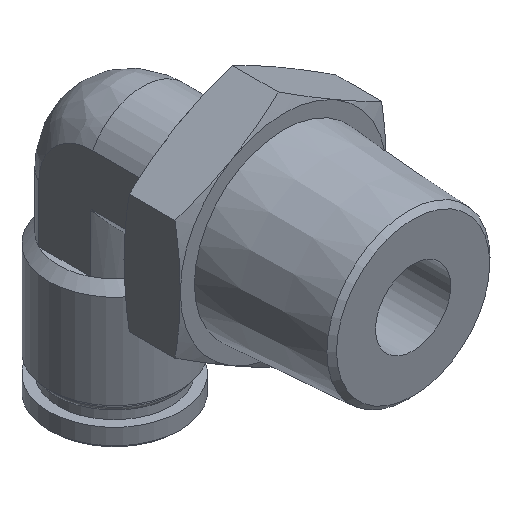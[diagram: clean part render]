
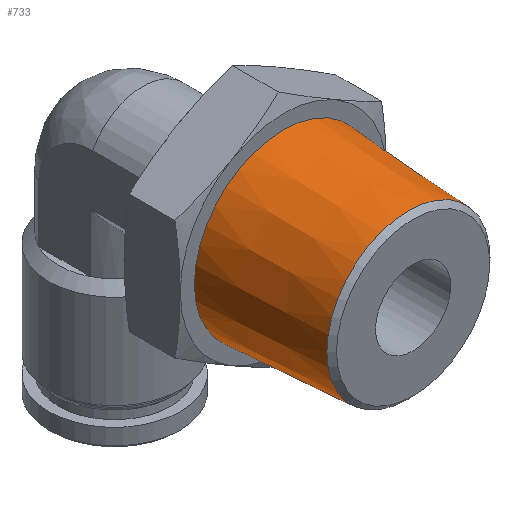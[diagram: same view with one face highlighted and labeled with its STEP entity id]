
A CAD part, isometric view. The second image highlights one B-rep face of the part: STEP entity #733.
In plain terms, the highlighted conical face has half-angle 3.5 degrees and reference radius 9.078 mm.
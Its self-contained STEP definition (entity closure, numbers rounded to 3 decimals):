
#86=FACE_OUTER_BOUND('',#138,.T.);
#138=EDGE_LOOP('',(#498,#499,#500,#501,#502));
#195=LINE('',#1166,#225);
#225=VECTOR('',#927,9.078);
#255=CIRCLE('',#807,8.686);
#256=CIRCLE('',#808,8.686);
#258=CIRCLE('',#812,9.5);
#311=VERTEX_POINT('',#1156);
#312=VERTEX_POINT('',#1158);
#314=VERTEX_POINT('',#1165);
#381=EDGE_CURVE('',#311,#312,#255,.T.);
#382=EDGE_CURVE('',#312,#311,#256,.T.);
#384=EDGE_CURVE('',#312,#314,#195,.T.);
#385=EDGE_CURVE('',#314,#314,#258,.T.);
#498=ORIENTED_EDGE('',*,*,#381,.F.);
#499=ORIENTED_EDGE('',*,*,#382,.F.);
#500=ORIENTED_EDGE('',*,*,#384,.T.);
#501=ORIENTED_EDGE('',*,*,#385,.F.);
#502=ORIENTED_EDGE('',*,*,#384,.F.);
#716=CONICAL_SURFACE('',#811,9.078,0.061);
#733=ADVANCED_FACE('',(#86),#716,.T.);
#807=AXIS2_PLACEMENT_3D('',#1159,#917,#918);
#808=AXIS2_PLACEMENT_3D('',#1160,#919,#920);
#811=AXIS2_PLACEMENT_3D('',#1164,#925,#926);
#812=AXIS2_PLACEMENT_3D('',#1167,#928,#929);
#917=DIRECTION('center_axis',(0.,-1.,0.));
#918=DIRECTION('ref_axis',(0.,0.,
1.));
#919=DIRECTION('center_axis',(0.,-1.,0.));
#920=DIRECTION('ref_axis',(0.,0.,
1.));
#925=DIRECTION('center_axis',(0.,1.,0.));
#926=DIRECTION('ref_axis',(0.,0.,-1.));
#927=DIRECTION('',(0.,0.998,0.061));
#928=DIRECTION('center_axis',(0.,1.,0.));
#929=DIRECTION('ref_axis',(0.,0.,-1.));
#1156=CARTESIAN_POINT('',(0.,-20.801,-8.686));
#1158=CARTESIAN_POINT('',(0.,-20.801,8.686));
#1159=CARTESIAN_POINT('Origin',(0.,-20.801,
0.));
#1160=CARTESIAN_POINT('Origin',(0.,-20.801,
0.));
#1164=CARTESIAN_POINT('Origin',(0.,-14.4,0.));
#1165=CARTESIAN_POINT('',(0.,-7.5,9.5));
#1166=CARTESIAN_POINT('',(0.,-14.4,9.078));
#1167=CARTESIAN_POINT('Origin',(0.,-7.5,0.));
